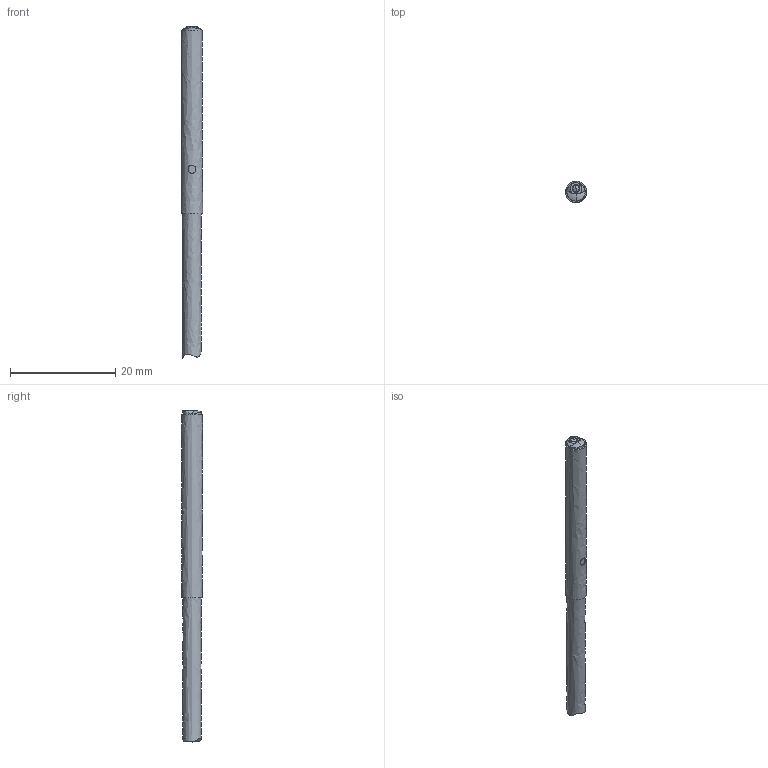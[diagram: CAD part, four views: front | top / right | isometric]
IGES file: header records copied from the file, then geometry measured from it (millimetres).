
Global section: file name: 153-13580_FT 04 R-PSL-K3; native system: Autodesk Inventor 2018; preprocessor: unknown; author: sgonin; date: 20190227.091720; units: millimetre
Bounding box: 4 x 4 x 63.18 mm (x, y, z)
Volume: 703.5 mm3; surface area: 791 mm2
Topology: 1 solids, 1 shells, 33 faces, 81 edges, 54 vertices
Faces by surface type: bspline 33
